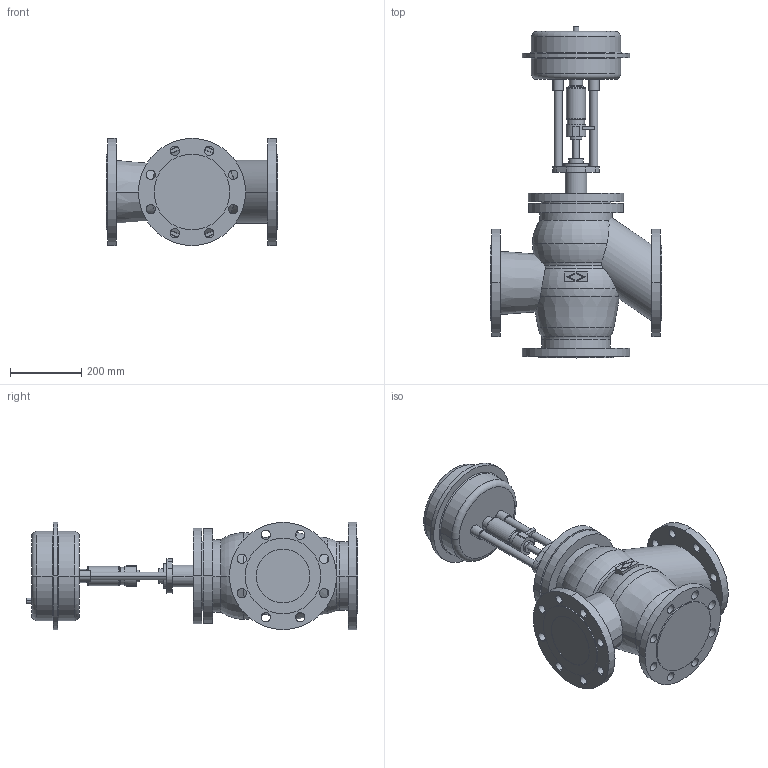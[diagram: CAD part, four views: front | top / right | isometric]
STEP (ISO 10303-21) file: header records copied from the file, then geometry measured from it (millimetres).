
FILE_DESCRIPTION(('OneSpaceDesigner STEP Export'),'2;1');
FILE_NAME('c000000679.stp','2006-09-19T10:08:51',(''),(''),'OneSpace Designer STEP processor for AP214 (Solid Model)','OneSpace Designer 13.20A 18-Aug-2005 (C) CoCreate Software GmbH','');
FILE_SCHEMA(('AUTOMOTIVE_DESIGN { 1 0 10303 214 1 1 1 1 }'));
Length unit declared in the file: millimetre
Products named in the file (2): 1; 2
Bounding box: 480 x 929.6 x 300 mm (x, y, z)
Volume: 36358223.2 mm3; surface area: 1314244.8 mm2
Topology: 2 solids, 2 shells, 227 faces, 556 edges, 363 vertices
Faces by surface type: cylinder 114, plane 73, torus 32, cone 8
Entity records: 6097 total; most frequent: CARTESIAN_POINT 1211, ORIENTED_EDGE 1112, DIRECTION 864, EDGE_CURVE 556, VERTEX_POINT 363, AXIS2_PLACEMENT_3D 324, EDGE_LOOP 305, FACE_OUTER_BOUND 227
